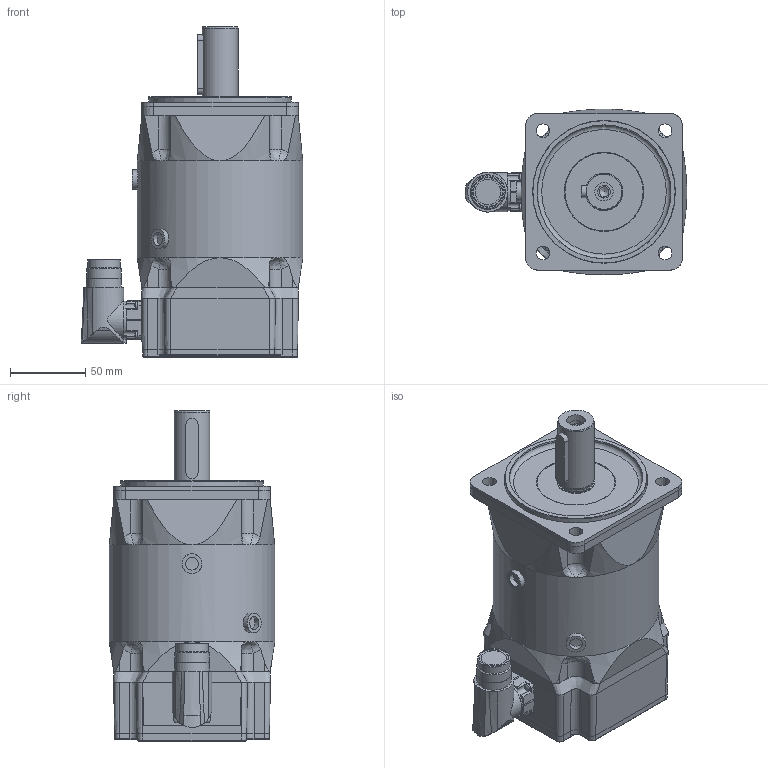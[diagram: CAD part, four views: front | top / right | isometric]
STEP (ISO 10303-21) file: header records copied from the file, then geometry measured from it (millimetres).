
FILE_DESCRIPTION(/* description */ (''),/* implementation_level */ '2;1');
FILE_NAME(/* name */ 'AM8352-xK_P0.stp',/* time_stamp */ '2024-11-06T19:38:35+01:00',/* author */ ('MartinMue'),/* organization */ (''),/* preprocessor_version */ 'ST-DEVELOPER v20',/* originating_system */ 'Autodesk Inventor 2024',/* authorisation */ '');
FILE_SCHEMA (('AUTOMOTIVE_DESIGN { 1 0 10303 214 3 1 1 }'));
Length unit declared in the file: millimetre
Products named in the file (5): 5000000380; 5000000380_1; Intercontec-B_ED_A_091_NN_00_00_1116_000.ipt_VM2_Sockel; Intercontec-B_ED_A_091_NN_00_00_1116_000.ipt_VM2_ohne_Sockel; DIN 6885-A8x7x40
Assembly tree (4 placements, depth 2):
  5000000380
    5000000380_1
    Intercontec-B_ED_A_091_NN_00_00_1116_000.ipt_VM2_Sockel
    Intercontec-B_ED_A_091_NN_00_00_1116_000.ipt_VM2_ohne_Sockel
    DIN 6885-A8x7x40
Bounding box: 147.26 x 110 x 219.51 mm (x, y, z)
Volume: 1687199 mm3; surface area: 102403.3 mm2
Topology: 4 solids, 4 shells, 489 faces, 1262 edges, 805 vertices
Faces by surface type: plane 252, cylinder 98, cone 73, bspline 49, torus 13, sphere 4
Full cylindrical faces by diameter (mm): 4.8 x4, 6.647 x1, 8.4 x1, 8.566 x2, 13 x2, 16.8 x1, 21.6 x1, 23 x1, 23.1 x1, 23.4 x1, 24 x1, 25 x1, 52 x1, 95 x1, 110 x1
Entity records: 19111 total; most frequent: CARTESIAN_POINT 6576, ORIENTED_EDGE 2508, DIRECTION 2395, EDGE_CURVE 1254, AXIS2_PLACEMENT_3D 862, VERTEX_POINT 807, LINE 671, VECTOR 671
